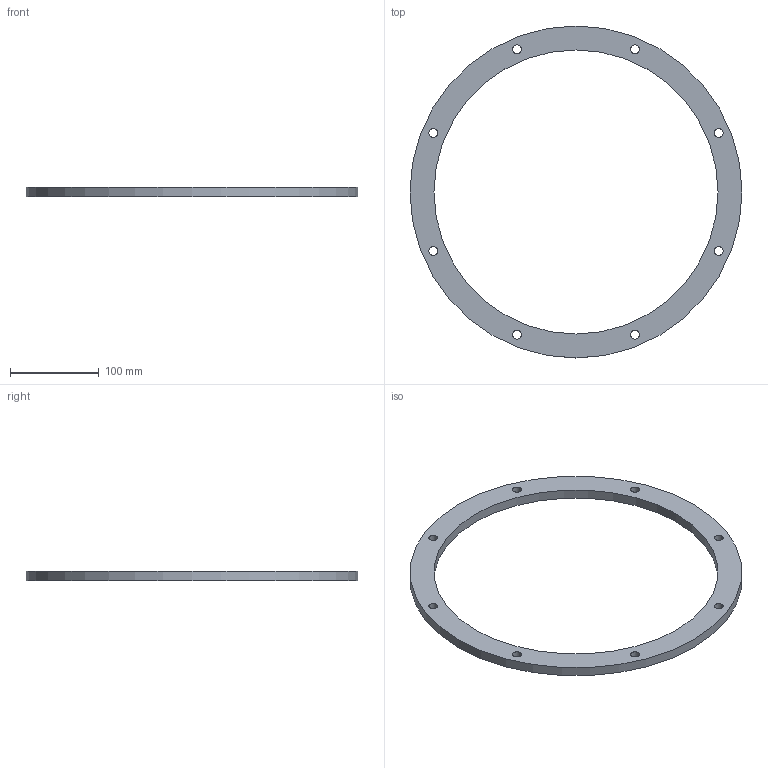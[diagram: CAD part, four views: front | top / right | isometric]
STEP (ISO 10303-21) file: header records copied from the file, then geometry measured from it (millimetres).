
FILE_DESCRIPTION(('Open CASCADE Model'),'2;1');
FILE_NAME('Open CASCADE Shape Model','2026-10-08T06:53:13',('Author'),( 'Open CASCADE'),'Open CASCADE STEP processor 7.8','Open CASCADE 7.8' ,'Unknown');
FILE_SCHEMA(('AUTOMOTIVE_DESIGN { 1 0 10303 214 1 1 1 1 }'));
Length unit declared in the file: millimetre
Products named in the file (1): Open CASCADE STEP translator 7.8 5
Bounding box: 374 x 374 x 11 mm (x, y, z)
Volume: 316857.9 mm3; surface area: 84358 mm2
Topology: 1 solids, 1 shells, 12 faces, 30 edges, 20 vertices
Faces by surface type: cylinder 10, plane 2
Full cylindrical faces by diameter (mm): 10 x8, 320 x1, 374 x1
Entity records: 858 total; most frequent: CARTESIAN_POINT 219, DIRECTION 120, ORIENTED_EDGE 60, PCURVE 60, DEFINITIONAL_REPRESENTATION 60, LINE 50, VECTOR 50, AXIS2_PLACEMENT_3D 33
